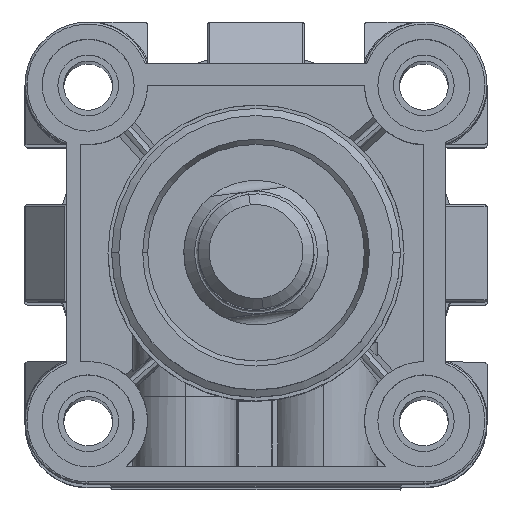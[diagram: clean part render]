
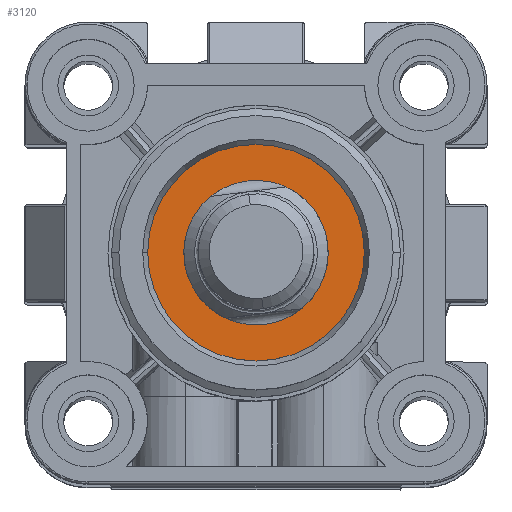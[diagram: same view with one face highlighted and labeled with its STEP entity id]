
A CAD part, top view. The second image highlights one B-rep face of the part: STEP entity #3120.
In plain terms, the highlighted planar face has unit normal (0, 0, 1) as drawn and (0, 0, -1) by its records, which use the part's own axes.
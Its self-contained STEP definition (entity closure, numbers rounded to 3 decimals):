
#994 = DIRECTION ( 'NONE',  ( 0., 1., 0. ) ) ;
#1124 = AXIS2_PLACEMENT_3D ( 'NONE', #4651, #15390, #6207 ) ;
#1276 = CARTESIAN_POINT ( 'NONE',  ( 41.43, 11.07, -25.5 ) ) ;
#1681 = EDGE_LOOP ( 'NONE', ( #14766, #18875 ) ) ;
#1934 = CARTESIAN_POINT ( 'NONE',  ( 36.25, 26.25, -25.5 ) ) ;
#2077 = ORIENTED_EDGE ( 'NONE', *, *, #17118, .F. ) ;
#3043 = VERTEX_POINT ( 'NONE', #13259 ) ;
#3120 = ADVANCED_FACE ( 'NONE', ( #16617, #8947 ), #11983, .T. ) ;
#3222 = CIRCLE ( 'NONE', #1124, 10. ) ;
#3403 = AXIS2_PLACEMENT_3D ( 'NONE', #19306, #10150, #994 ) ;
#4173 = AXIS2_PLACEMENT_3D ( 'NONE', #18205, #9014, #19718 ) ;
#4340 = DIRECTION ( 'NONE',  ( -1., 0., 0. ) ) ;
#4651 = CARTESIAN_POINT ( 'NONE',  ( 26.25, 26.25, -25.5 ) ) ;
#4835 = CARTESIAN_POINT ( 'NONE',  ( 26.25, 26.25, -25.5 ) ) ;
#5556 = CARTESIAN_POINT ( 'NONE',  ( 26.25, 41.25, -25.5 ) ) ;
#6207 = DIRECTION ( 'NONE',  ( -1., 0., 0. ) ) ;
#6376 = DIRECTION ( 'NONE',  ( -1., 0., 0. ) ) ;
#6856 = ORIENTED_EDGE ( 'NONE', *, *, #16809, .F. ) ;
#6880 = AXIS2_PLACEMENT_3D ( 'NONE', #4835, #15569, #6376 ) ;
#8134 = EDGE_LOOP ( 'NONE', ( #6856, #2077 ) ) ;
#8841 = VERTEX_POINT ( 'NONE', #5556 ) ;
#8947 = FACE_OUTER_BOUND ( 'NONE', #1681, .T. ) ;
#9014 = DIRECTION ( 'NONE',  ( 0., 0., -1. ) ) ;
#9944 = AXIS2_PLACEMENT_3D ( 'NONE', #1276, #13513, #4340 ) ;
#10150 = DIRECTION ( 'NONE',  ( 0., 0., -1. ) ) ;
#10668 = CARTESIAN_POINT ( 'NONE',  ( 26.25, 11.25, -25.5 ) ) ;
#11916 = CIRCLE ( 'NONE', #4173, 15. ) ;
#11983 = PLANE ( 'NONE',  #9944 ) ;
#13259 = CARTESIAN_POINT ( 'NONE',  ( 16.25, 26.25, -25.5 ) ) ;
#13513 = DIRECTION ( 'NONE',  ( 0., 0., -1. ) ) ;
#13856 = EDGE_CURVE ( 'NONE', #8841, #16517, #11916, .T. ) ;
#14111 = VERTEX_POINT ( 'NONE', #1934 ) ;
#14361 = EDGE_CURVE ( 'NONE', #16517, #8841, #17891, .T. ) ;
#14766 = ORIENTED_EDGE ( 'NONE', *, *, #13856, .T. ) ;
#15202 = CIRCLE ( 'NONE', #6880, 10. ) ;
#15390 = DIRECTION ( 'NONE',  ( 0., 0., -1. ) ) ;
#15569 = DIRECTION ( 'NONE',  ( 0., 0., -1. ) ) ;
#16517 = VERTEX_POINT ( 'NONE', #10668 ) ;
#16617 = FACE_BOUND ( 'NONE', #8134, .T. ) ;
#16809 = EDGE_CURVE ( 'NONE', #3043, #14111, #3222, .T. ) ;
#17118 = EDGE_CURVE ( 'NONE', #14111, #3043, #15202, .T. ) ;
#17891 = CIRCLE ( 'NONE', #3403, 15. ) ;
#18205 = CARTESIAN_POINT ( 'NONE',  ( 26.25, 26.25, -25.5 ) ) ;
#18875 = ORIENTED_EDGE ( 'NONE', *, *, #14361, .T. ) ;
#19306 = CARTESIAN_POINT ( 'NONE',  ( 26.25, 26.25, -25.5 ) ) ;
#19718 = DIRECTION ( 'NONE',  ( 0., 1., 0. ) ) ;
